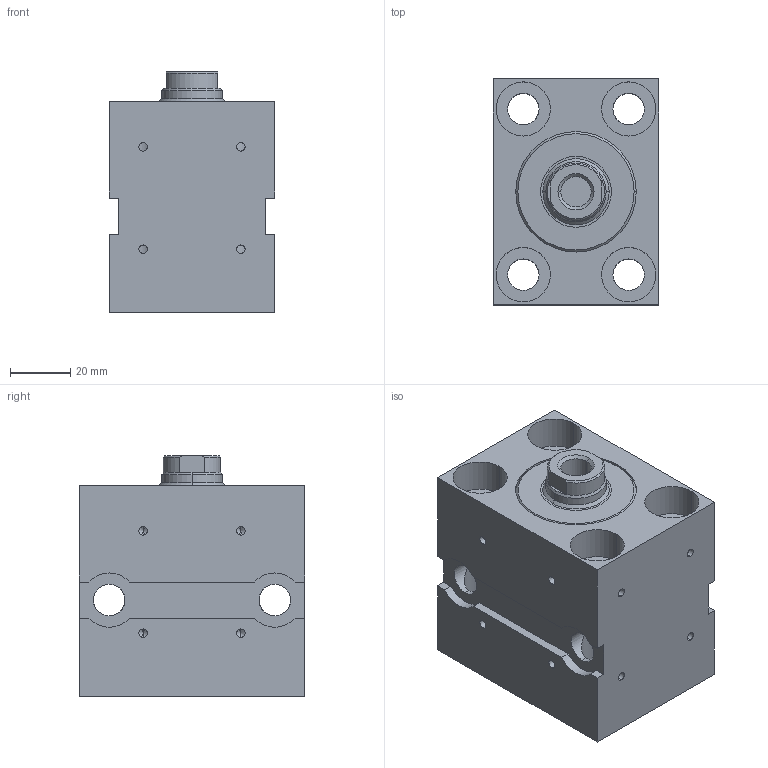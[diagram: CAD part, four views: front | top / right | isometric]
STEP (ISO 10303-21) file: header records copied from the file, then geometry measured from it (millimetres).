
FILE_DESCRIPTION (( 'STEP AP203' ), '1' );
FILE_NAME ('BZ_500.32_20.78.201.020 PP.KBC38__DH_0_.STEP', '2022-05-19T13:51:46', ( '' ), ( '' ), 'SwSTEP 2.0', 'SolidWorks 2020', '' );
FILE_SCHEMA (( 'CONFIG_CONTROL_DESIGN' ));
Length unit declared in the file: millimetre
Products named in the file (6): BZ_500.32_20.78.201.020 PP.KBC38__DH_0_(2)^BZ_500.32_20.78.201.020 PP.KBC38__DH_0_; BZ_500.32_20.78.201.020 PP.KBC38__DH_0_; _Gehaeuse f. BZ500.32_20.Fehler in IDBF.201.20Fehler in IDNT00(1338frei278000))7^BZ_500.32_20.78.201.020 PP.KBC38__DH_0_(2)_BZ_500.32_20.78.201.020 PP.KBC38__DH_0_; _Verschraubung komplett mit Dichtung f. BZ_RZ_FZ.32_20.201, Art.-Nr._ 041671(201)^BZ_500.32_20.78.201.020 PP.KBC38__DH_0_(2)_BZ_500.32_20.78.201.020 PP.KBC38__DH_0_; _Dichtungssatz f. BZ_RZ_FZ.32_20.xx.201.20 Artikelnr._ 013411(0)^BZ_500.32_20.78.201.020 PP.KBC38__DH_0_(2)_BZ_500.32_20.78.201.020 PP.KBC38__DH_0_; _Kolbenstange komplett f. BZ_RZ_FZ.32_20.xx.201.20(0_11 1 12 1.75 0 0 10 15 0 0 0)0^BZ_500.32_20.78.201.020 PP.KBC38__DH_0_(2)_BZ_500.32_20.78.201.020 PP.KBC38__DH_0_
Assembly tree (5 placements, depth 3):
  BZ_500.32_20.78.201.020 PP.KBC38__DH_0_
    BZ_500.32_20.78.201.020 PP.KBC38__DH_0_(2)^BZ_500.32_20.78.201.020 PP.KBC38__DH_0_
      _Gehaeuse f. BZ500.32_20.Fehler in IDBF.201.20Fehler in IDNT00(1338frei278000))7^BZ_500.32_20.78.201.020 PP.KBC38__DH_0_(2)_BZ_500.32_20.78.201.020 PP.KBC38__DH_0_
      _Verschraubung komplett mit Dichtung f. BZ_RZ_FZ.32_20.201, Art.-Nr._ 041671(201)^BZ_500.32_20.78.201.020 PP.KBC38__DH_0_(2)_BZ_500.32_20.78.201.020 PP.KBC38__DH_0_
      _Dichtungssatz f. BZ_RZ_FZ.32_20.xx.201.20 Artikelnr._ 013411(0)^BZ_500.32_20.78.201.020 PP.KBC38__DH_0_(2)_BZ_500.32_20.78.201.020 PP.KBC38__DH_0_
      _Kolbenstange komplett f. BZ_RZ_FZ.32_20.xx.201.20(0_11 1 12 1.75 0 0 10 15 0 0 0)0^BZ_500.32_20.78.201.020 PP.KBC38__DH_0_(2)_BZ_500.32_20.78.201.020 PP.KBC38__DH_0_
Bounding box: 55 x 75 x 80 mm (x, y, z)
Volume: 225092.9 mm3; surface area: 62699.9 mm2
Topology: 4 solids, 4 shells, 199 faces, 496 edges, 304 vertices
Faces by surface type: cylinder 117, plane 52, cone 30
Entity records: 6898 total; most frequent: CARTESIAN_POINT 1493, DIRECTION 1057, ORIENTED_EDGE 960, EDGE_CURVE 480, AXIS2_PLACEMENT_3D 419, VERTEX_POINT 304, EDGE_LOOP 250, VECTOR 219
